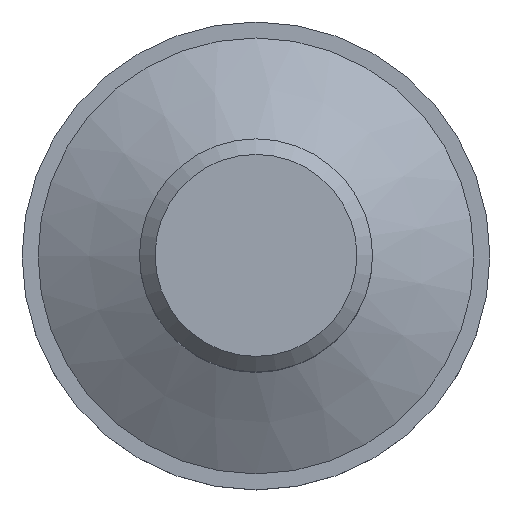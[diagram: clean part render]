
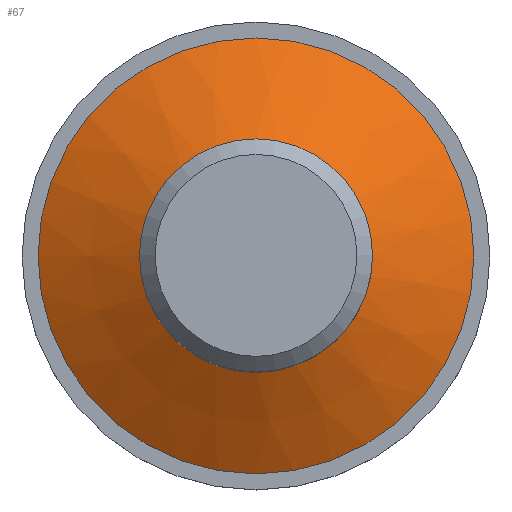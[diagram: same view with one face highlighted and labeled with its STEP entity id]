
A CAD part, top view. The second image highlights one B-rep face of the part: STEP entity #67.
In plain terms, the highlighted conical face has half-angle 60 degrees and reference radius 27.95 mm.
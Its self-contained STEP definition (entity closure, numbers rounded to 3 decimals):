
#34=CONICAL_SURFACE('',#166,27.95,60.);
#54=FACE_BOUND('',#92,.T.);
#55=FACE_BOUND('',#93,.T.);
#67=ADVANCED_FACE('',(#54,#55),#34,.T.);
#92=EDGE_LOOP('',(#112));
#93=EDGE_LOOP('',(#113));
#112=ORIENTED_EDGE('',*,*,#128,.F.);
#113=ORIENTED_EDGE('',*,*,#129,.F.);
#118=VERTEX_POINT('',#219);
#119=VERTEX_POINT('',#222);
#128=EDGE_CURVE('',#118,#118,#138,.T.);
#129=EDGE_CURVE('',#119,#119,#139,.T.);
#138=CIRCLE('',#150,14.95);
#139=CIRCLE('',#152,27.95);
#150=AXIS2_PLACEMENT_3D('',#218,#176,#177);
#152=AXIS2_PLACEMENT_3D('',#221,#180,#181);
#166=AXIS2_PLACEMENT_3D('',#242,#208,#209);
#176=DIRECTION('',(0.,0.,1.));
#177=DIRECTION('',(-1.,0.,0.));
#180=DIRECTION('',(0.,0.,-1.));
#181=DIRECTION('',(-1.,0.,0.));
#208=DIRECTION('',(0.,0.,-1.));
#209=DIRECTION('',(-1.,0.,0.));
#218=CARTESIAN_POINT('',(0.,0.,13.506));
#219=CARTESIAN_POINT('',(-14.95,0.,13.506));
#221=CARTESIAN_POINT('',(0.,0.,6.));
#222=CARTESIAN_POINT('',(-27.95,0.,6.));
#242=CARTESIAN_POINT('',(0.,0.,6.));
